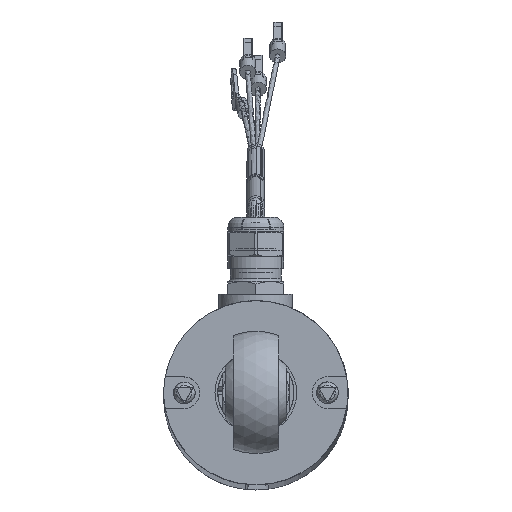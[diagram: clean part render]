
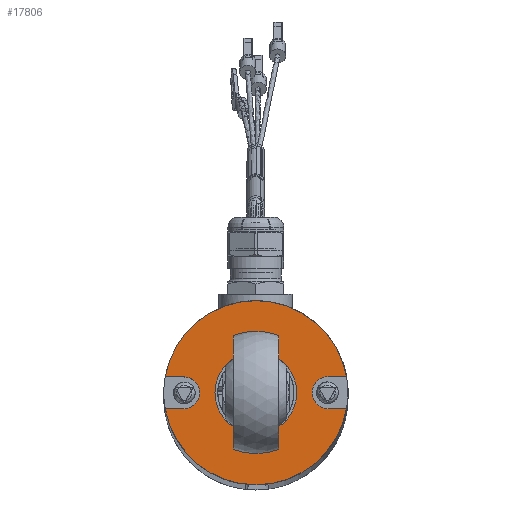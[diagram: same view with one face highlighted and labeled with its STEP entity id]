
A CAD part, top view. The second image highlights one B-rep face of the part: STEP entity #17806.
In plain terms, the highlighted planar face has unit normal (0, 0, 1).
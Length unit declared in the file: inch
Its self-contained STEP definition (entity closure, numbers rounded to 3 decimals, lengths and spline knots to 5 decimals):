
#1081=LINE('',#26073,#2230);
#1084=LINE('',#26079,#2233);
#1089=LINE('',#26097,#2238);
#1091=LINE('',#26100,#2240);
#2230=VECTOR('',#21182,0.3937);
#2233=VECTOR('',#21187,0.3937);
#2238=VECTOR('',#21208,0.3937);
#2240=VECTOR('',#21212,0.3937);
#3593=FACE_BOUND('',#4852,.T.);
#3780=FACE_OUTER_BOUND('',#4851,.T.);
#4851=EDGE_LOOP('',(#11356,#11357,#11358,#11359,#11360,#11361,#11362,#11363,
#11364));
#4852=EDGE_LOOP('',(#11365));
#5974=CIRCLE('',#19154,0.70866);
#5985=CIRCLE('',#19173,0.70866);
#5987=CIRCLE('',#19175,0.70866);
#5993=CIRCLE('',#19186,0.12303);
#5995=CIRCLE('',#19190,0.12303);
#5997=CIRCLE('',#19196,0.15945);
#6808=VERTEX_POINT('',#25979);
#6809=VERTEX_POINT('',#25981);
#6824=VERTEX_POINT('',#26046);
#6827=VERTEX_POINT('',#26052);
#6828=VERTEX_POINT('',#26054);
#6834=VERTEX_POINT('',#26072);
#6836=VERTEX_POINT('',#26078);
#6838=VERTEX_POINT('',#26088);
#6839=VERTEX_POINT('',#26089);
#6842=VERTEX_POINT('',#26104);
#8529=EDGE_CURVE('',#6809,#6808,#5974,.T.);
#8553=EDGE_CURVE('',#6824,#6809,#5985,.T.);
#8557=EDGE_CURVE('',#6828,#6827,#5987,.T.);
#8566=EDGE_CURVE('',#6834,#6828,#1081,.T.);
#8569=EDGE_CURVE('',#6808,#6836,#1084,.T.);
#8572=EDGE_CURVE('',#6836,#6834,#5993,.T.);
#8574=EDGE_CURVE('',#6838,#6839,#5995,.T.);
#8578=EDGE_CURVE('',#6839,#6824,#1089,.T.);
#8580=EDGE_CURVE('',#6827,#6838,#1091,.T.);
#8582=EDGE_CURVE('',#6842,#6842,#5997,.T.);
#11356=ORIENTED_EDGE('',*,*,#8569,.T.);
#11357=ORIENTED_EDGE('',*,*,#8572,.T.);
#11358=ORIENTED_EDGE('',*,*,#8566,.T.);
#11359=ORIENTED_EDGE('',*,*,#8557,.T.);
#11360=ORIENTED_EDGE('',*,*,#8580,.T.);
#11361=ORIENTED_EDGE('',*,*,#8574,.T.);
#11362=ORIENTED_EDGE('',*,*,#8578,.T.);
#11363=ORIENTED_EDGE('',*,*,#8553,.T.);
#11364=ORIENTED_EDGE('',*,*,#8529,.T.);
#11365=ORIENTED_EDGE('',*,*,#8582,.T.);
#16215=PLANE('',#19195);
#17806=ADVANCED_FACE('',(#3780,#3593),#16215,.T.);
#19154=AXIS2_PLACEMENT_3D('',#25982,#21106,#21107);
#19173=AXIS2_PLACEMENT_3D('',#26047,#21155,#21156);
#19175=AXIS2_PLACEMENT_3D('',#26055,#21161,#21162);
#19186=AXIS2_PLACEMENT_3D('',#26084,#21192,#21193);
#19190=AXIS2_PLACEMENT_3D('',#26090,#21200,#21201);
#19195=AXIS2_PLACEMENT_3D('',#26103,#21216,#21217);
#19196=AXIS2_PLACEMENT_3D('',#26105,#21218,#21219);
#21106=DIRECTION('center_axis',(0.,0.,1.));
#21107=DIRECTION('ref_axis',(1.,0.,0.));
#21155=DIRECTION('center_axis',(0.,0.,1.));
#21156=DIRECTION('ref_axis',(1.,0.,0.));
#21161=DIRECTION('center_axis',(0.,0.,1.));
#21162=DIRECTION('ref_axis',(1.,0.,0.));
#21182=DIRECTION('',(-1.,-0.001,0.));
#21187=DIRECTION('',(1.,0.001,0.));
#21192=DIRECTION('center_axis',(0.,0.,-1.));
#21193=DIRECTION('ref_axis',(-0.001,1.,0.));
#21200=DIRECTION('center_axis',(0.,0.,-1.));
#21201=DIRECTION('ref_axis',(0.001,-1.,0.));
#21208=DIRECTION('',(1.,0.001,0.));
#21212=DIRECTION('',(-1.,-0.001,0.));
#21216=DIRECTION('center_axis',(0.,0.,1.));
#21217=DIRECTION('ref_axis',(1.,0.,0.));
#21218=DIRECTION('center_axis',(0.,0.,-1.));
#21219=DIRECTION('ref_axis',(1.,0.,0.));
#25979=CARTESIAN_POINT('',(-0.69806,0.12214,0.59055));
#25981=CARTESIAN_POINT('',(0.,0.70866,0.59055));
#25982=CARTESIAN_POINT('Origin',(0.,0.,0.59055));
#26046=CARTESIAN_POINT('',(0.69774,0.12392,0.59055));
#26047=CARTESIAN_POINT('Origin',(0.,0.,0.59055));
#26052=CARTESIAN_POINT('',(0.69806,-0.12214,0.59055));
#26054=CARTESIAN_POINT('',(-0.69774,-0.12392,0.59055));
#26055=CARTESIAN_POINT('Origin',(0.,0.,0.59055));
#26072=CARTESIAN_POINT('',(-0.55595,-0.12374,0.59055));
#26073=CARTESIAN_POINT('',(-0.34879,-0.12348,0.59055));
#26078=CARTESIAN_POINT('',(-0.55626,0.12232,0.59055));
#26079=CARTESIAN_POINT('',(-0.27821,0.12268,0.59055));
#26084=CARTESIAN_POINT('Origin',(-0.5561,-0.00071,
0.59055));
#26088=CARTESIAN_POINT('',(0.55626,-0.12232,0.59055));
#26089=CARTESIAN_POINT('',(0.55595,0.12374,0.59055));
#26090=CARTESIAN_POINT('Origin',(0.5561,0.00071,
0.59055));
#26097=CARTESIAN_POINT('',(0.34879,0.12348,0.59055));
#26100=CARTESIAN_POINT('',(0.27821,-0.12268,0.59055));
#26103=CARTESIAN_POINT('Origin',(0.,0.,0.59055));
#26104=CARTESIAN_POINT('',(-0.15945,0.,0.59055));
#26105=CARTESIAN_POINT('Origin',(0.,0.,0.59055));
